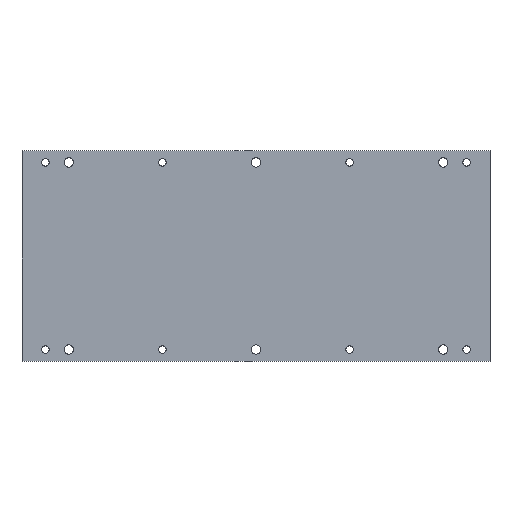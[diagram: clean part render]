
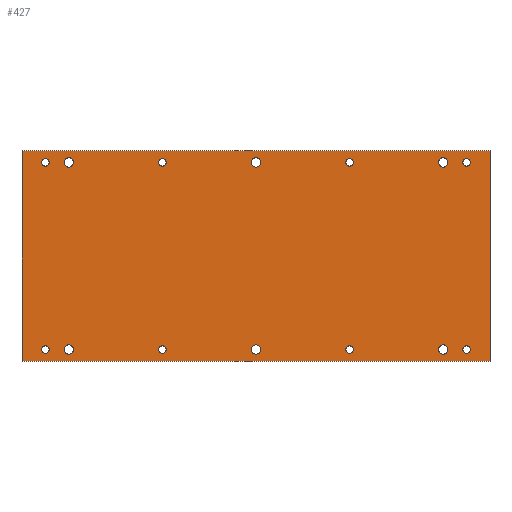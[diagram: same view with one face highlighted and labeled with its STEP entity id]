
A CAD part, top view. The second image highlights one B-rep face of the part: STEP entity #427.
In plain terms, the highlighted planar face has unit normal (0, 0, 1).
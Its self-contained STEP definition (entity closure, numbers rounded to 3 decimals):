
#15=FACE_BOUND('',#88,.T.);
#16=FACE_BOUND('',#89,.T.);
#17=FACE_BOUND('',#90,.T.);
#18=FACE_BOUND('',#91,.T.);
#19=FACE_BOUND('',#92,.T.);
#20=FACE_BOUND('',#93,.T.);
#21=FACE_BOUND('',#94,.T.);
#22=FACE_BOUND('',#95,.T.);
#23=FACE_BOUND('',#96,.T.);
#24=FACE_BOUND('',#97,.T.);
#25=FACE_BOUND('',#98,.T.);
#26=FACE_BOUND('',#99,.T.);
#27=FACE_BOUND('',#100,.T.);
#28=FACE_BOUND('',#101,.T.);
#47=PLANE('',#489);
#67=FACE_OUTER_BOUND('',#87,.T.);
#87=EDGE_LOOP('',(#359,#360,#361,#362));
#88=EDGE_LOOP('',(#363));
#89=EDGE_LOOP('',(#364));
#90=EDGE_LOOP('',(#365));
#91=EDGE_LOOP('',(#366));
#92=EDGE_LOOP('',(#367));
#93=EDGE_LOOP('',(#368));
#94=EDGE_LOOP('',(#369));
#95=EDGE_LOOP('',(#370));
#96=EDGE_LOOP('',(#371));
#97=EDGE_LOOP('',(#372));
#98=EDGE_LOOP('',(#373));
#99=EDGE_LOOP('',(#374));
#100=EDGE_LOOP('',(#375));
#101=EDGE_LOOP('',(#376));
#133=LINE('',#707,#159);
#136=LINE('',#713,#162);
#139=LINE('',#719,#165);
#142=LINE('',#723,#168);
#159=VECTOR('',#595,10.);
#162=VECTOR('',#600,10.);
#165=VECTOR('',#605,10.);
#168=VECTOR('',#610,10.);
#169=CIRCLE('',#444,0.8);
#171=CIRCLE('',#447,0.8);
#173=CIRCLE('',#450,0.8);
#175=CIRCLE('',#453,1.);
#177=CIRCLE('',#456,0.8);
#179=CIRCLE('',#459,1.);
#181=CIRCLE('',#462,1.);
#183=CIRCLE('',#465,0.8);
#185=CIRCLE('',#468,0.8);
#187=CIRCLE('',#471,1.);
#189=CIRCLE('',#474,1.);
#191=CIRCLE('',#477,0.8);
#193=CIRCLE('',#480,0.8);
#195=CIRCLE('',#483,1.);
#197=VERTEX_POINT('',#617);
#199=VERTEX_POINT('',#623);
#201=VERTEX_POINT('',#629);
#203=VERTEX_POINT('',#635);
#205=VERTEX_POINT('',#641);
#207=VERTEX_POINT('',#647);
#209=VERTEX_POINT('',#653);
#211=VERTEX_POINT('',#659);
#213=VERTEX_POINT('',#665);
#215=VERTEX_POINT('',#671);
#217=VERTEX_POINT('',#677);
#219=VERTEX_POINT('',#683);
#221=VERTEX_POINT('',#689);
#223=VERTEX_POINT('',#695);
#227=VERTEX_POINT('',#704);
#228=VERTEX_POINT('',#706);
#230=VERTEX_POINT('',#712);
#232=VERTEX_POINT('',#718);
#233=EDGE_CURVE('',#197,#197,#169,.T.);
#236=EDGE_CURVE('',#199,#199,#171,.T.);
#239=EDGE_CURVE('',#201,#201,#173,.T.);
#242=EDGE_CURVE('',#203,#203,#175,.T.);
#245=EDGE_CURVE('',#205,#205,#177,.T.);
#248=EDGE_CURVE('',#207,#207,#179,.T.);
#251=EDGE_CURVE('',#209,#209,#181,.T.);
#254=EDGE_CURVE('',#211,#211,#183,.T.);
#257=EDGE_CURVE('',#213,#213,#185,.T.);
#260=EDGE_CURVE('',#215,#215,#187,.T.);
#263=EDGE_CURVE('',#217,#217,#189,.T.);
#266=EDGE_CURVE('',#219,#219,#191,.T.);
#269=EDGE_CURVE('',#221,#221,#193,.T.);
#272=EDGE_CURVE('',#223,#223,#195,.T.);
#277=EDGE_CURVE('',#228,#227,#133,.T.);
#280=EDGE_CURVE('',#230,#228,#136,.T.);
#283=EDGE_CURVE('',#232,#230,#139,.T.);
#286=EDGE_CURVE('',#227,#232,#142,.T.);
#359=ORIENTED_EDGE('',*,*,#286,.T.);
#360=ORIENTED_EDGE('',*,*,#283,.T.);
#361=ORIENTED_EDGE('',*,*,#280,.T.);
#362=ORIENTED_EDGE('',*,*,#277,.T.);
#363=ORIENTED_EDGE('',*,*,#272,.T.);
#364=ORIENTED_EDGE('',*,*,#269,.T.);
#365=ORIENTED_EDGE('',*,*,#266,.T.);
#366=ORIENTED_EDGE('',*,*,#263,.T.);
#367=ORIENTED_EDGE('',*,*,#260,.T.);
#368=ORIENTED_EDGE('',*,*,#257,.T.);
#369=ORIENTED_EDGE('',*,*,#254,.T.);
#370=ORIENTED_EDGE('',*,*,#251,.T.);
#371=ORIENTED_EDGE('',*,*,#248,.T.);
#372=ORIENTED_EDGE('',*,*,#245,.T.);
#373=ORIENTED_EDGE('',*,*,#242,.T.);
#374=ORIENTED_EDGE('',*,*,#239,.T.);
#375=ORIENTED_EDGE('',*,*,#236,.T.);
#376=ORIENTED_EDGE('',*,*,#233,.T.);
#427=ADVANCED_FACE('',(#67,#15,#16,#17,#18,#19,#20,#21,#22,#23,#24,#25,
#26,#27,#28),#47,.T.);
#444=AXIS2_PLACEMENT_3D('',#618,#495,#496);
#447=AXIS2_PLACEMENT_3D('',#624,#502,#503);
#450=AXIS2_PLACEMENT_3D('',#630,#509,#510);
#453=AXIS2_PLACEMENT_3D('',#636,#516,#517);
#456=AXIS2_PLACEMENT_3D('',#642,#523,#524);
#459=AXIS2_PLACEMENT_3D('',#648,#530,#531);
#462=AXIS2_PLACEMENT_3D('',#654,#537,#538);
#465=AXIS2_PLACEMENT_3D('',#660,#544,#545);
#468=AXIS2_PLACEMENT_3D('',#666,#551,#552);
#471=AXIS2_PLACEMENT_3D('',#672,#558,#559);
#474=AXIS2_PLACEMENT_3D('',#678,#565,#566);
#477=AXIS2_PLACEMENT_3D('',#684,#572,#573);
#480=AXIS2_PLACEMENT_3D('',#690,#579,#580);
#483=AXIS2_PLACEMENT_3D('',#696,#586,#587);
#489=AXIS2_PLACEMENT_3D('',#724,#611,#612);
#495=DIRECTION('center_axis',(0.,0.,-1.));
#496=DIRECTION('ref_axis',(1.,0.,0.));
#502=DIRECTION('center_axis',(0.,0.,-1.));
#503=DIRECTION('ref_axis',(1.,0.,0.));
#509=DIRECTION('center_axis',(0.,0.,-1.));
#510=DIRECTION('ref_axis',(1.,0.,0.));
#516=DIRECTION('center_axis',(0.,0.,-1.));
#517=DIRECTION('ref_axis',(1.,0.,0.));
#523=DIRECTION('center_axis',(0.,0.,-1.));
#524=DIRECTION('ref_axis',(1.,0.,0.));
#530=DIRECTION('center_axis',(0.,0.,-1.));
#531=DIRECTION('ref_axis',(1.,0.,0.));
#537=DIRECTION('center_axis',(0.,0.,-1.));
#538=DIRECTION('ref_axis',(1.,0.,0.));
#544=DIRECTION('center_axis',(0.,0.,-1.));
#545=DIRECTION('ref_axis',(1.,0.,0.));
#551=DIRECTION('center_axis',(0.,0.,-1.));
#552=DIRECTION('ref_axis',(1.,0.,0.));
#558=DIRECTION('center_axis',(0.,0.,-1.));
#559=DIRECTION('ref_axis',(1.,0.,0.));
#565=DIRECTION('center_axis',(0.,0.,-1.));
#566=DIRECTION('ref_axis',(1.,0.,0.));
#572=DIRECTION('center_axis',(0.,0.,-1.));
#573=DIRECTION('ref_axis',(1.,0.,0.));
#579=DIRECTION('center_axis',(0.,0.,-1.));
#580=DIRECTION('ref_axis',(1.,0.,0.));
#586=DIRECTION('center_axis',(0.,0.,-1.));
#587=DIRECTION('ref_axis',(1.,0.,0.));
#595=DIRECTION('',(0.,1.,0.));
#600=DIRECTION('',(1.,0.,0.));
#605=DIRECTION('',(0.,-1.,0.));
#610=DIRECTION('',(-1.,0.,0.));
#611=DIRECTION('center_axis',(0.,0.,1.));
#612=DIRECTION('ref_axis',(1.,0.,0.));
#617=CARTESIAN_POINT('',(44.2,40.,2.));
#618=CARTESIAN_POINT('Origin',(45.,40.,2.));
#623=CARTESIAN_POINT('',(-20.8,0.,2.));
#624=CARTESIAN_POINT('Origin',(-20.,0.,2.));
#629=CARTESIAN_POINT('',(-45.8,40.,2.));
#630=CARTESIAN_POINT('Origin',(-45.,40.,2.));
#635=CARTESIAN_POINT('',(39.,40.,2.));
#636=CARTESIAN_POINT('Origin',(40.,40.,2.));
#641=CARTESIAN_POINT('',(-20.8,40.,2.));
#642=CARTESIAN_POINT('Origin',(-20.,40.,2.));
#647=CARTESIAN_POINT('',(-1.,40.,2.));
#648=CARTESIAN_POINT('Origin',(0.,40.,2.));
#653=CARTESIAN_POINT('',(-1.,0.,2.));
#654=CARTESIAN_POINT('Origin',(0.,0.,2.));
#659=CARTESIAN_POINT('',(19.2,0.,2.));
#660=CARTESIAN_POINT('Origin',(20.,0.,2.));
#665=CARTESIAN_POINT('',(19.2,40.,2.));
#666=CARTESIAN_POINT('Origin',(20.,40.,2.));
#671=CARTESIAN_POINT('',(-41.,40.,2.));
#672=CARTESIAN_POINT('Origin',(-40.,40.,2.));
#677=CARTESIAN_POINT('',(-41.,0.,2.));
#678=CARTESIAN_POINT('Origin',(-40.,0.,2.));
#683=CARTESIAN_POINT('',(44.2,0.,2.));
#684=CARTESIAN_POINT('Origin',(45.,0.,2.));
#689=CARTESIAN_POINT('',(-45.8,0.,2.));
#690=CARTESIAN_POINT('Origin',(-45.,0.,2.));
#695=CARTESIAN_POINT('',(39.,0.,2.));
#696=CARTESIAN_POINT('Origin',(40.,0.,2.));
#704=CARTESIAN_POINT('',(50.,42.5,2.));
#706=CARTESIAN_POINT('',(50.,-2.5,2.));
#707=CARTESIAN_POINT('',(50.,42.5,2.));
#712=CARTESIAN_POINT('',(-50.,-2.5,2.));
#713=CARTESIAN_POINT('',(50.,-2.5,2.));
#718=CARTESIAN_POINT('',(-50.,42.5,2.));
#719=CARTESIAN_POINT('',(-50.,-2.5,2.));
#723=CARTESIAN_POINT('',(-50.,42.5,2.));
#724=CARTESIAN_POINT('Origin',(0.,20.,2.));
